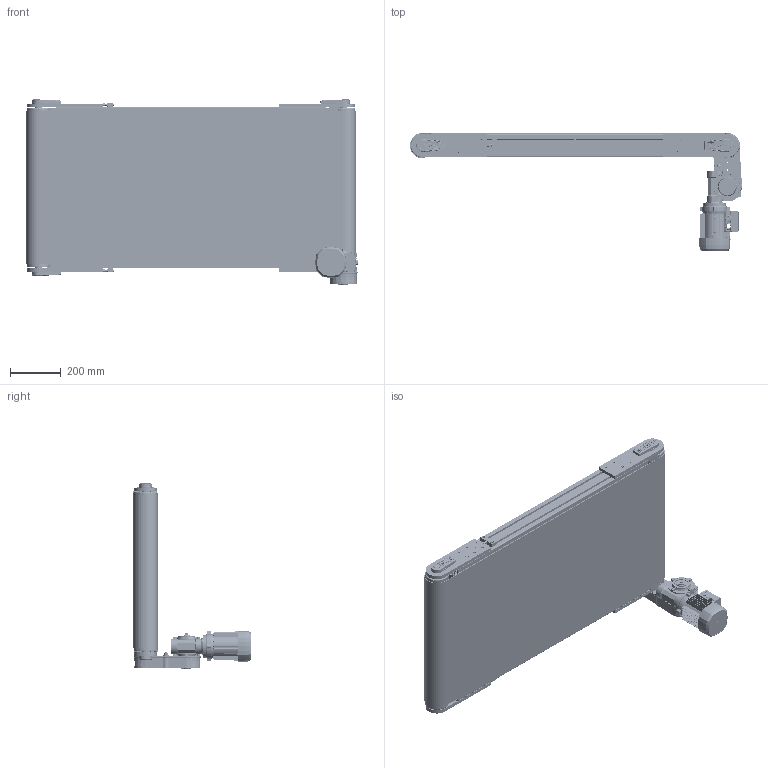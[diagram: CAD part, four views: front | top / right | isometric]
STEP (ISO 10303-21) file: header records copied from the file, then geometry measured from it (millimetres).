
FILE_DESCRIPTION (( 'STEP AP203' ), '1' );
FILE_NAME ('NASTRO_RETTILINEO_TAPPETO.step', '2026-05-30T06:32:14', ( 'Utente Windows' ), ( '' ), 'SwSTEP 2.0', 'SolidWorks 2024', '' );
FILE_SCHEMA (( 'CONFIG_CONTROL_DESIGN' ));
Length unit declared in the file: millimetre
Products named in the file (52): VITE_RONDELLA_M8X20; BLOCCO_TRAINO_95_STANDARD_CON TENDINASTRO E CARTER; 084.302.060; 25UNI7435; LAMIERA_STANDARD; DADI ESAGONALI AUTOBLOCCANTI UNI 7473_M08 UNI 7473; 084.803.003; VITI TE UNI 5739_M8x20 UNI 5739; 084.821.003; 084.813.005; BLOCCO_RINVIO_95_STANDARD_CON TENDINASTRO E CARTER; 084.301.000 VITI ALUSIC_084.301.003; 084.810.006; 30UNI7435; 084.802.071; 084.813.002; 084.802.019_084.802.019; 084.302.000 DADI ALUSIC 13x13_084.302.004; VITE_DADO_M5X12; BLOCCO_TRAINO_95_RINVIATO_CINGHIA_49_SX; 084.821.002; CHIAVETTE_A 8x7x20 UNI 6604-69; 08UNI7435; BLOCCO_PERNO_95_RINVIO; 084.303.001; VITI TSEI UNI 5933_M5x12 UNI 5933; 084.808.002_084.808.002; RONDELLE FASCIA LARGA UNI 6593_8.4x32 UNI 6593; 084.809.002; RULLO_95_Default<A macchina>; 084.810.003; 084.802.034_084.802.034; CUSCINETTI A SFERE_608-2RS; CHIAVETTE_A 8x7x70 UNI 6604-69; 084.832.001; BLOCCO_PERNO_95_RINVIATO; RONDELLE FASCIA LARGA UNI 6593_8.4x24 UNI 6593; VITI TE UNI 5739_M6x12 UNI 5739; 084.802.068; 084.810.008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
Assembly tree (120 placements, depth 4):
  NASTRO_RETTILINEO_TAPPETO
    TAPPETO_STANDARD
    TELAIO_95_STANDARD_Default<A macchina>
    LAMIERA_STANDARD
    RULLO_95_Default<A macchina>  x2
    BLOCCO_PERNO_95_RINVIO  x3
      084.812.003
      084.810.003
      30UNI7435
    BLOCCO_TRAINO_95_STANDARD_CON TENDINASTRO E CARTER
      084.808.002_084.808.002
      084.302.060  x2
      084.802.019_084.802.019
      084.301.000 VITI ALUSIC_084.301.003  x6
      VITI TCEI UNI 5931_M4x25 UNI 5931  x2
      084.802.071
      084.802.068
      VITI TSEI UNI 5933_M4x12 UNI 5933  x2
    BLOCCO_PERNO_95_RINVIATO
      084.810.003
      084.813.002
      CHIAVETTE_A 8x7x25 UNI 6604-69
      CHIAVETTE_A 8x7x20 UNI 6604-69
      30UNI7435
    BLOCCO_TRAINO_95_RINVIATO_CINGHIA_49_SX
      084.808.003_084.808.003
      084.802.034_084.802.034
      084.821.002  x2
      084.809.002
      084.813.005
      084.810.006
        084.810.008
        CUSCINETTI A SFERE_608-2RS  x3
        08UNI7435
        RONDELLE FASCIA LARGA UNI 6593_8.4x24 UNI 6593
        DADI ESAGONALI AUTOBLOCCANTI UNI 7473_M08 UNI 7473
      084.821.003
      084.302.000 DADI ALUSIC 13x13_084.302.004  x6
      084.301.000 VITI ALUSIC_084.301.003  x6
      CHIAVETTE_A 8x7x70 UNI 6604-69
      CHIAVETTE_A 8x7x25 UNI 6604-69  x2
      RONDELLE FASCIA LARGA UNI 6593_8.4x32 UNI 6593
      VITI TE UNI 5739_M8x12 UNI 5739
      VITI TE UNI 5739_M8x20 UNI 5739  x4
      VITI TE UNI 5739_M6x12 UNI 5739  x4
      25UNI7435
      VITI TCEI UNI 5931_M4x25 UNI 5931  x2
      084.832.001
      084.802.068
    BLOCCO_RINVIO_95_STANDARD_CON TENDINASTRO E CARTER  x2
      084.808.002_084.808.002
      084.803.003
      084.302.060
      084.802.019_084.802.019
      VITI TSEI UNI 5933_M4x12 UNI 5933
      084.302.000 DADI ALUSIC 13x13-1_084.302.004
      084.301.000 VITI ALUSIC_084.301.003
      084.802.071
    VITE_RONDELLA_M8X20  x9
      084.303.001
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Bounding box: 1307.25 x 464.5 x 728.5 mm (x, y, z)
Volume: 14928546.8 mm3; surface area: 10403178 mm2
Topology: 167 solids, 170 shells, 8136 faces, 20943 edges, 13265 vertices
Faces by surface type: plane 3607, cylinder 2429, bspline 822, cone 772, torus 459, sphere 47
Entity records: 181191 total; most frequent: CARTESIAN_POINT 62311, ORIENTED_EDGE 24224, DIRECTION 22518, EDGE_CURVE 12112, AXIS2_PLACEMENT_3D 8174, VERTEX_POINT 7719, LINE 6170, VECTOR 6170
